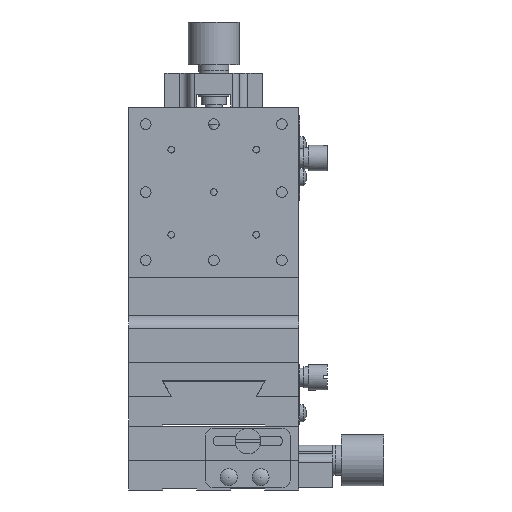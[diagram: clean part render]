
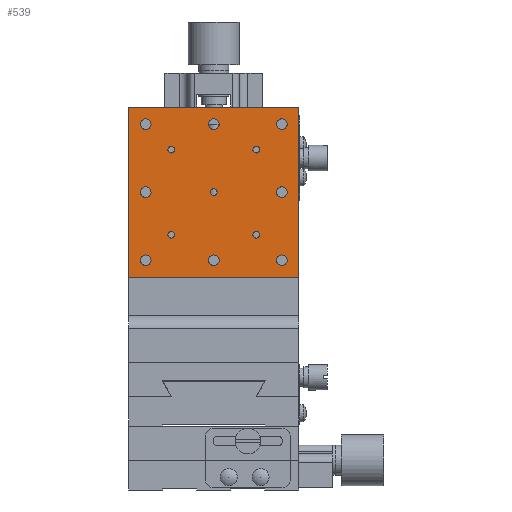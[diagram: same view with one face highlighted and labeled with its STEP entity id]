
A CAD part, front view. The second image highlights one B-rep face of the part: STEP entity #539.
In plain terms, the highlighted planar face has unit normal (0, -1, 0).
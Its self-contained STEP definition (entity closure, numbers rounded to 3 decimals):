
#539 = ADVANCED_FACE( '', ( #1323, #1324, #1325, #1326, #1327, #1328, #1329, #1330, #1331, #1332, #1333, #1334, #1335, #1336 ), #1337, .T. );
#1323 = FACE_BOUND( '', #2699, .T. );
#1324 = FACE_BOUND( '', #2700, .T. );
#1325 = FACE_BOUND( '', #2701, .T. );
#1326 = FACE_BOUND( '', #2702, .T. );
#1327 = FACE_BOUND( '', #2703, .T. );
#1328 = FACE_BOUND( '', #2704, .T. );
#1329 = FACE_BOUND( '', #2705, .T. );
#1330 = FACE_BOUND( '', #2706, .T. );
#1331 = FACE_BOUND( '', #2707, .T. );
#1332 = FACE_BOUND( '', #2708, .T. );
#1333 = FACE_BOUND( '', #2709, .T. );
#1334 = FACE_BOUND( '', #2710, .T. );
#1335 = FACE_BOUND( '', #2711, .T. );
#1336 = FACE_OUTER_BOUND( '', #2712, .T. );
#1337 = PLANE( '', #2713 );
#2699 = EDGE_LOOP( '', ( #4888 ) );
#2700 = EDGE_LOOP( '', ( #4889 ) );
#2701 = EDGE_LOOP( '', ( #4890 ) );
#2702 = EDGE_LOOP( '', ( #4891 ) );
#2703 = EDGE_LOOP( '', ( #4892 ) );
#2704 = EDGE_LOOP( '', ( #4893 ) );
#2705 = EDGE_LOOP( '', ( #4894 ) );
#2706 = EDGE_LOOP( '', ( #4895 ) );
#2707 = EDGE_LOOP( '', ( #4896 ) );
#2708 = EDGE_LOOP( '', ( #4897 ) );
#2709 = EDGE_LOOP( '', ( #4898 ) );
#2710 = EDGE_LOOP( '', ( #4899 ) );
#2711 = EDGE_LOOP( '', ( #4900 ) );
#2712 = EDGE_LOOP( '', ( #4901, #4902, #4903, #4904 ) );
#2713 = AXIS2_PLACEMENT_3D( '', #4905, #4906, #4907 );
#4888 = ORIENTED_EDGE( '', *, *, #7897, .T. );
#4889 = ORIENTED_EDGE( '', *, *, #7898, .T. );
#4890 = ORIENTED_EDGE( '', *, *, #7899, .T. );
#4891 = ORIENTED_EDGE( '', *, *, #7900, .T. );
#4892 = ORIENTED_EDGE( '', *, *, #7901, .T. );
#4893 = ORIENTED_EDGE( '', *, *, #7902, .T. );
#4894 = ORIENTED_EDGE( '', *, *, #7903, .T. );
#4895 = ORIENTED_EDGE( '', *, *, #7904, .T. );
#4896 = ORIENTED_EDGE( '', *, *, #7905, .T. );
#4897 = ORIENTED_EDGE( '', *, *, #7906, .T. );
#4898 = ORIENTED_EDGE( '', *, *, #7907, .T. );
#4899 = ORIENTED_EDGE( '', *, *, #7908, .T. );
#4900 = ORIENTED_EDGE( '', *, *, #7909, .T. );
#4901 = ORIENTED_EDGE( '', *, *, #7910, .F. );
#4902 = ORIENTED_EDGE( '', *, *, #7911, .F. );
#4903 = ORIENTED_EDGE( '', *, *, #7895, .F. );
#4904 = ORIENTED_EDGE( '', *, *, #7912, .F. );
#4905 = CARTESIAN_POINT( '', ( 0., -11., 70. ) );
#4906 = DIRECTION( '', ( 0., -1., 0. ) );
#4907 = DIRECTION( '', ( 0., 0., 1. ) );
#7895 = EDGE_CURVE( '', #9506, #9508, #9509, .T. );
#7897 = EDGE_CURVE( '', #9511, #9511, #9512, .T. );
#7898 = EDGE_CURVE( '', #9513, #9513, #9514, .T. );
#7899 = EDGE_CURVE( '', #9515, #9515, #9516, .T. );
#7900 = EDGE_CURVE( '', #9517, #9517, #9518, .T. );
#7901 = EDGE_CURVE( '', #9519, #9519, #9520, .T. );
#7902 = EDGE_CURVE( '', #9521, #9521, #9522, .T. );
#7903 = EDGE_CURVE( '', #9523, #9523, #9524, .T. );
#7904 = EDGE_CURVE( '', #9525, #9525, #9526, .T. );
#7905 = EDGE_CURVE( '', #9527, #9527, #9528, .T. );
#7906 = EDGE_CURVE( '', #9529, #9529, #9530, .T. );
#7907 = EDGE_CURVE( '', #9531, #9531, #9532, .T. );
#7908 = EDGE_CURVE( '', #9533, #9533, #9534, .T. );
#7909 = EDGE_CURVE( '', #9535, #9535, #9536, .T. );
#7910 = EDGE_CURVE( '', #9537, #9538, #9539, .T. );
#7911 = EDGE_CURVE( '', #9508, #9537, #9540, .T. );
#7912 = EDGE_CURVE( '', #9538, #9506, #9541, .T. );
#9506 = VERTEX_POINT( '', #12013 );
#9508 = VERTEX_POINT( '', #12016 );
#9509 = LINE( '', #12017, #12018 );
#9511 = VERTEX_POINT( '', #12021 );
#9512 = CIRCLE( '', #12022, 0.8 );
#9513 = VERTEX_POINT( '', #12023 );
#9514 = CIRCLE( '', #12024, 0.8 );
#9515 = VERTEX_POINT( '', #12025 );
#9516 = CIRCLE( '', #12026, 0.8 );
#9517 = VERTEX_POINT( '', #12027 );
#9518 = CIRCLE( '', #12028, 0.8 );
#9519 = VERTEX_POINT( '', #12029 );
#9520 = CIRCLE( '', #12030, 0.8 );
#9521 = VERTEX_POINT( '', #12031 );
#9522 = CIRCLE( '', #12032, 1.25 );
#9523 = VERTEX_POINT( '', #12033 );
#9524 = CIRCLE( '', #12034, 1.25 );
#9525 = VERTEX_POINT( '', #12035 );
#9526 = CIRCLE( '', #12036, 1.25 );
#9527 = VERTEX_POINT( '', #12037 );
#9528 = CIRCLE( '', #12038, 1.25 );
#9529 = VERTEX_POINT( '', #12039 );
#9530 = CIRCLE( '', #12040, 1.25 );
#9531 = VERTEX_POINT( '', #12041 );
#9532 = CIRCLE( '', #12042, 1.25 );
#9533 = VERTEX_POINT( '', #12043 );
#9534 = CIRCLE( '', #12044, 1.25 );
#9535 = VERTEX_POINT( '', #12045 );
#9536 = CIRCLE( '', #12046, 1.25 );
#9537 = VERTEX_POINT( '', #12047 );
#9538 = VERTEX_POINT( '', #12048 );
#9539 = LINE( '', #12049, #12050 );
#9540 = LINE( '', #12051, #12052 );
#9541 = LINE( '', #12053, #12054 );
#12013 = CARTESIAN_POINT( '', ( -20., -11., 50. ) );
#12016 = CARTESIAN_POINT( '', ( -20., -11., 90. ) );
#12017 = CARTESIAN_POINT( '', ( -20., -11., 70. ) );
#12018 = VECTOR( '', #15024, 1000. );
#12021 = CARTESIAN_POINT( '', ( 0.8, -11., 70. ) );
#12022 = AXIS2_PLACEMENT_3D( '', #15026, #15027, #15028 );
#12023 = CARTESIAN_POINT( '', ( -9.2, -11., 60. ) );
#12024 = AXIS2_PLACEMENT_3D( '', #15029, #15030, #15031 );
#12025 = CARTESIAN_POINT( '', ( -9.2, -11., 80. ) );
#12026 = AXIS2_PLACEMENT_3D( '', #15032, #15033, #15034 );
#12027 = CARTESIAN_POINT( '', ( 10.8, -11., 80. ) );
#12028 = AXIS2_PLACEMENT_3D( '', #15035, #15036, #15037 );
#12029 = CARTESIAN_POINT( '', ( 10.8, -11., 60. ) );
#12030 = AXIS2_PLACEMENT_3D( '', #15038, #15039, #15040 );
#12031 = CARTESIAN_POINT( '', ( 1.25, -11., 54. ) );
#12032 = AXIS2_PLACEMENT_3D( '', #15041, #15042, #15043 );
#12033 = CARTESIAN_POINT( '', ( -14.75, -11., 54. ) );
#12034 = AXIS2_PLACEMENT_3D( '', #15044, #15045, #15046 );
#12035 = CARTESIAN_POINT( '', ( -14.75, -11., 70. ) );
#12036 = AXIS2_PLACEMENT_3D( '', #15047, #15048, #15049 );
#12037 = CARTESIAN_POINT( '', ( -14.75, -11., 86. ) );
#12038 = AXIS2_PLACEMENT_3D( '', #15050, #15051, #15052 );
#12039 = CARTESIAN_POINT( '', ( 1.25, -11., 86. ) );
#12040 = AXIS2_PLACEMENT_3D( '', #15053, #15054, #15055 );
#12041 = CARTESIAN_POINT( '', ( 17.25, -11., 86. ) );
#12042 = AXIS2_PLACEMENT_3D( '', #15056, #15057, #15058 );
#12043 = CARTESIAN_POINT( '', ( 17.25, -11., 70. ) );
#12044 = AXIS2_PLACEMENT_3D( '', #15059, #15060, #15061 );
#12045 = CARTESIAN_POINT( '', ( 17.25, -11., 54. ) );
#12046 = AXIS2_PLACEMENT_3D( '', #15062, #15063, #15064 );
#12047 = CARTESIAN_POINT( '', ( 20., -11., 90. ) );
#12048 = CARTESIAN_POINT( '', ( 20., -11., 50. ) );
#12049 = CARTESIAN_POINT( '', ( 20., -11., 70. ) );
#12050 = VECTOR( '', #15065, 1000. );
#12051 = CARTESIAN_POINT( '', ( 0., -11., 90. ) );
#12052 = VECTOR( '', #15066, 1000. );
#12053 = CARTESIAN_POINT( '', ( 0., -11., 50. ) );
#12054 = VECTOR( '', #15067, 1000. );
#15024 = DIRECTION( '', ( 0., 0., 1. ) );
#15026 = CARTESIAN_POINT( '', ( 0., -11., 70. ) );
#15027 = DIRECTION( '', ( 0., 1., 0. ) );
#15028 = DIRECTION( '', ( 1., 0., 0. ) );
#15029 = CARTESIAN_POINT( '', ( -10., -11., 60. ) );
#15030 = DIRECTION( '', ( 0., 1., 0. ) );
#15031 = DIRECTION( '', ( 1., 0., 0. ) );
#15032 = CARTESIAN_POINT( '', ( -10., -11., 80. ) );
#15033 = DIRECTION( '', ( 0., 1., 0. ) );
#15034 = DIRECTION( '', ( 1., 0., 0. ) );
#15035 = CARTESIAN_POINT( '', ( 10., -11., 80. ) );
#15036 = DIRECTION( '', ( 0., 1., 0. ) );
#15037 = DIRECTION( '', ( 1., 0., 0. ) );
#15038 = CARTESIAN_POINT( '', ( 10., -11., 60. ) );
#15039 = DIRECTION( '', ( 0., 1., 0. ) );
#15040 = DIRECTION( '', ( 1., 0., 0. ) );
#15041 = CARTESIAN_POINT( '', ( 0., -11., 54. ) );
#15042 = DIRECTION( '', ( 0., 1., 0. ) );
#15043 = DIRECTION( '', ( 1., 0., 0. ) );
#15044 = CARTESIAN_POINT( '', ( -16., -11., 54. ) );
#15045 = DIRECTION( '', ( 0., 1., 0. ) );
#15046 = DIRECTION( '', ( 1., 0., 0. ) );
#15047 = CARTESIAN_POINT( '', ( -16., -11., 70. ) );
#15048 = DIRECTION( '', ( 0., 1., 0. ) );
#15049 = DIRECTION( '', ( 1., 0., 0. ) );
#15050 = CARTESIAN_POINT( '', ( -16., -11., 86. ) );
#15051 = DIRECTION( '', ( 0., 1., 0. ) );
#15052 = DIRECTION( '', ( 1., 0., 0. ) );
#15053 = CARTESIAN_POINT( '', ( 0., -11., 86. ) );
#15054 = DIRECTION( '', ( 0., 1., 0. ) );
#15055 = DIRECTION( '', ( 1., 0., 0. ) );
#15056 = CARTESIAN_POINT( '', ( 16., -11., 86. ) );
#15057 = DIRECTION( '', ( 0., 1., 0. ) );
#15058 = DIRECTION( '', ( 1., 0., 0. ) );
#15059 = CARTESIAN_POINT( '', ( 16., -11., 70. ) );
#15060 = DIRECTION( '', ( 0., 1., 0. ) );
#15061 = DIRECTION( '', ( 1., 0., 0. ) );
#15062 = CARTESIAN_POINT( '', ( 16., -11., 54. ) );
#15063 = DIRECTION( '', ( 0., 1., 0. ) );
#15064 = DIRECTION( '', ( 1., 0., 0. ) );
#15065 = DIRECTION( '', ( 0., 0., -1. ) );
#15066 = DIRECTION( '', ( 1., 0., 0. ) );
#15067 = DIRECTION( '', ( -1., 0., 0. ) );
